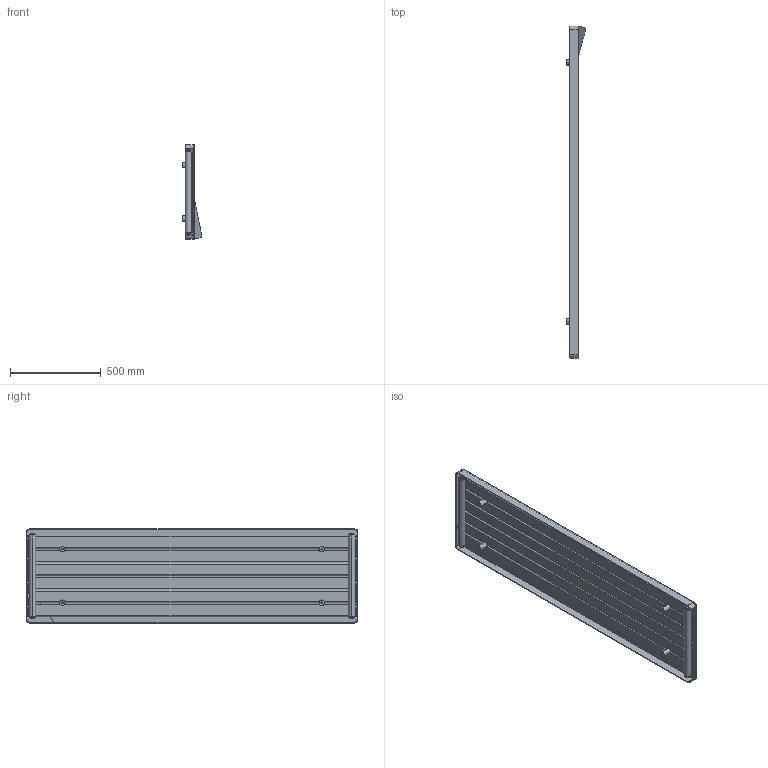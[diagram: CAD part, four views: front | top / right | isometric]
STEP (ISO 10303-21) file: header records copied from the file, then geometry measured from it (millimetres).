
FILE_DESCRIPTION (( 'STEP AP203' ), '1' );
FILE_NAME ('FBOOK.STEP', '2026-03-03T13:52:27', ( '' ), ( '' ), 'SwSTEP 2.0', 'SolidWorks 2025', '' );
FILE_SCHEMA (( 'CONFIG_CONTROL_DESIGN' ));
Length unit declared in the file: millimetre
Products named in the file (8): tappo_sx.prt; FISSAGGIO BOOK; TRAVERSINO PIATTO 70 [Con configurazioni]_1810; tappo_sfiato.prt; FBOOK; COLLETTORE INT 75 [Con configurazioni]_455; COVER BOOK_1830x520; BU1822
Assembly tree (18 placements, depth 2):
  FBOOK
    COLLETTORE INT 75 [Con configurazioni]_455  x2
    TRAVERSINO PIATTO 70 [Con configurazioni]_1810  x6
    COVER BOOK_1830x520
    tappo_sx.prt  x3
    tappo_sfiato.prt
    BU1822
    FISSAGGIO BOOK  x4
Bounding box: 106.95 x 1830.67 x 520.5 mm (x, y, z)
Volume: 9106332.4 mm3; surface area: 7645933.8 mm2
Topology: 16 solids, 24 shells, 933 faces, 2470 edges, 1551 vertices
Faces by surface type: plane 393, cylinder 287, cone 108, bspline 101, torus 44
Entity records: 22033 total; most frequent: CARTESIAN_POINT 13114, ORIENTED_EDGE 1844, DIRECTION 1258, EDGE_CURVE 926, VERTEX_POINT 577, AXIS2_PLACEMENT_3D 488, B_SPLINE_CURVE_WITH_KNOTS 475, EDGE_LOOP 380
